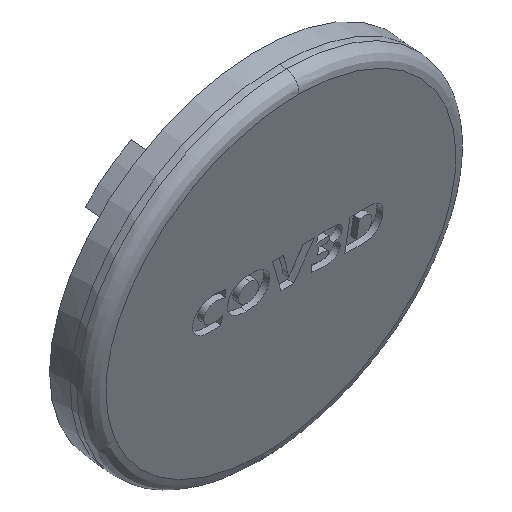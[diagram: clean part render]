
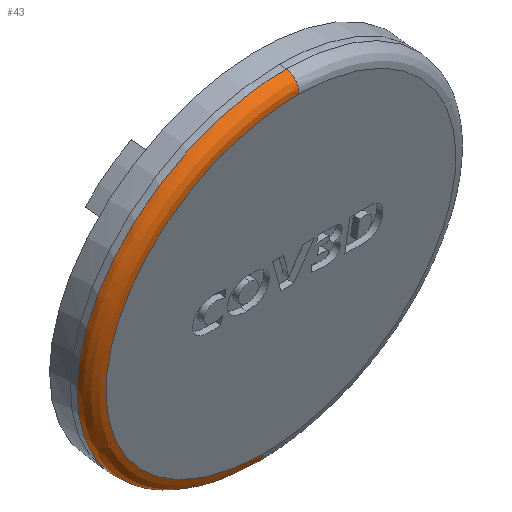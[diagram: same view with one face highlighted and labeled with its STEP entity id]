
A CAD part, isometric view. The second image highlights one B-rep face of the part: STEP entity #43.
In plain terms, the highlighted free-form (B-spline) face has degree [2, 2] with [3, 5] control points.
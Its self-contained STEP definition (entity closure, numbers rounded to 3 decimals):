
#43=ADVANCED_FACE('',(#110),#1043,.T.);
#110=FACE_OUTER_BOUND('',#186,.T.);
#186=EDGE_LOOP('',(#321,#322,#323,#324));
#321=ORIENTED_EDGE('',*,*,#577,.F.);
#322=ORIENTED_EDGE('',*,*,#578,.T.);
#323=ORIENTED_EDGE('',*,*,#579,.T.);
#324=ORIENTED_EDGE('',*,*,#713,.F.);
#577=EDGE_CURVE('',#888,#977,#727,.T.);
#578=EDGE_CURVE('',#888,#889,#728,.T.);
#579=EDGE_CURVE('',#889,#978,#729,.T.);
#713=EDGE_CURVE('',#977,#978,#746,.T.);
#727=(
BOUNDED_CURVE()
B_SPLINE_CURVE(2,(#2068,#2069,#2070,#2071,#2072),.UNSPECIFIED.,.F.,.F.)
B_SPLINE_CURVE_WITH_KNOTS((3,2,3),(0.,43.396,86.792),
 .UNSPECIFIED.)
CURVE()
GEOMETRIC_REPRESENTATION_ITEM()
RATIONAL_B_SPLINE_CURVE((1.,0.707,1.,0.707,1.))
REPRESENTATION_ITEM('')
);
#728=(
BOUNDED_CURVE()
B_SPLINE_CURVE(2,(#2073,#2074,#2075),.UNSPECIFIED.,.F.,.F.)
B_SPLINE_CURVE_WITH_KNOTS((3,3),(0.,3.727),.UNSPECIFIED.)
CURVE()
GEOMETRIC_REPRESENTATION_ITEM()
RATIONAL_B_SPLINE_CURVE((1.,0.707,1.))
REPRESENTATION_ITEM('')
);
#729=(
BOUNDED_CURVE()
B_SPLINE_CURVE(2,(#2076,#2077,#2078,#2079,#2080),.UNSPECIFIED.,.F.,.F.)
B_SPLINE_CURVE_WITH_KNOTS((3,2,3),(0.,43.396,86.792),
 .UNSPECIFIED.)
CURVE()
GEOMETRIC_REPRESENTATION_ITEM()
RATIONAL_B_SPLINE_CURVE((1.,0.707,1.,0.707,1.))
REPRESENTATION_ITEM('')
);
#746=(
BOUNDED_CURVE()
B_SPLINE_CURVE(2,(#2816,#2817,#2818),.UNSPECIFIED.,.F.,.F.)
B_SPLINE_CURVE_WITH_KNOTS((3,3),(0.,3.727),.UNSPECIFIED.)
CURVE()
GEOMETRIC_REPRESENTATION_ITEM()
RATIONAL_B_SPLINE_CURVE((1.,0.707,1.))
REPRESENTATION_ITEM('')
);
#888=VERTEX_POINT('',#1920);
#889=VERTEX_POINT('',#1921);
#977=VERTEX_POINT('',#2009);
#978=VERTEX_POINT('',#2010);
#1043=(
BOUNDED_SURFACE()
B_SPLINE_SURFACE(2,2,((#1190,#1191,#1192,#1193,#1194),(#1195,#1196,#1197,
#1198,#1199),(#1200,#1201,#1202,#1203,#1204)),.UNSPECIFIED.,.F.,.F.,.F.)
B_SPLINE_SURFACE_WITH_KNOTS((3,3),(3,2,3),(0.,3.727),(0.,43.396,
86.792),.UNSPECIFIED.)
GEOMETRIC_REPRESENTATION_ITEM()
RATIONAL_B_SPLINE_SURFACE(((1.,0.707,1.,0.707,1.),
(0.707,0.5,0.707,0.5,
0.707),(1.,0.707,1.,0.707,1.)))
REPRESENTATION_ITEM('')
SURFACE()
);
#1190=CARTESIAN_POINT('',(-0.114,-104.051,-22.438));
#1191=CARTESIAN_POINT('',(-31.812,-104.013,-22.434));
#1192=CARTESIAN_POINT('',(-31.812,-107.248,7.573));
#1193=CARTESIAN_POINT('',(-31.812,-110.484,37.58));
#1194=CARTESIAN_POINT('',(-0.114,-110.522,37.576));
#1195=CARTESIAN_POINT('',(-0.116,-106.411,-22.692));
#1196=CARTESIAN_POINT('',(-31.815,-106.372,-22.688));
#1197=CARTESIAN_POINT('',(-31.815,-109.608,7.319));
#1198=CARTESIAN_POINT('',(-31.815,-112.843,37.326));
#1199=CARTESIAN_POINT('',(-0.116,-112.881,37.321));
#1200=CARTESIAN_POINT('',(-0.116,-106.667,-20.319));
#1201=CARTESIAN_POINT('',(-29.308,-106.631,-20.315));
#1202=CARTESIAN_POINT('',(-29.308,-109.611,7.318));
#1203=CARTESIAN_POINT('',(-29.308,-112.59,34.952));
#1204=CARTESIAN_POINT('',(-0.116,-112.625,34.948));
#1920=CARTESIAN_POINT('',(-0.114,-104.051,-22.438));
#1921=CARTESIAN_POINT('',(-0.116,-106.667,-20.319));
#2009=CARTESIAN_POINT('',(-0.114,-110.522,37.576));
#2010=CARTESIAN_POINT('',(-0.116,-112.625,34.948));
#2068=CARTESIAN_POINT('',(-0.114,-104.051,-22.438));
#2069=CARTESIAN_POINT('',(-31.812,-104.013,-22.434));
#2070=CARTESIAN_POINT('',(-31.812,-107.248,7.573));
#2071=CARTESIAN_POINT('',(-31.812,-110.484,37.58));
#2072=CARTESIAN_POINT('',(-0.114,-110.522,37.576));
#2073=CARTESIAN_POINT('',(-0.114,-104.051,-22.438));
#2074=CARTESIAN_POINT('',(-0.116,-106.411,-22.692));
#2075=CARTESIAN_POINT('',(-0.116,-106.667,-20.319));
#2076=CARTESIAN_POINT('',(-0.116,-106.667,-20.319));
#2077=CARTESIAN_POINT('',(-29.308,-106.631,-20.315));
#2078=CARTESIAN_POINT('',(-29.308,-109.611,7.318));
#2079=CARTESIAN_POINT('',(-29.308,-112.59,34.952));
#2080=CARTESIAN_POINT('',(-0.116,-112.625,34.948));
#2816=CARTESIAN_POINT('',(-0.114,-110.522,37.576));
#2817=CARTESIAN_POINT('',(-0.116,-112.881,37.321));
#2818=CARTESIAN_POINT('',(-0.116,-112.625,34.948));
